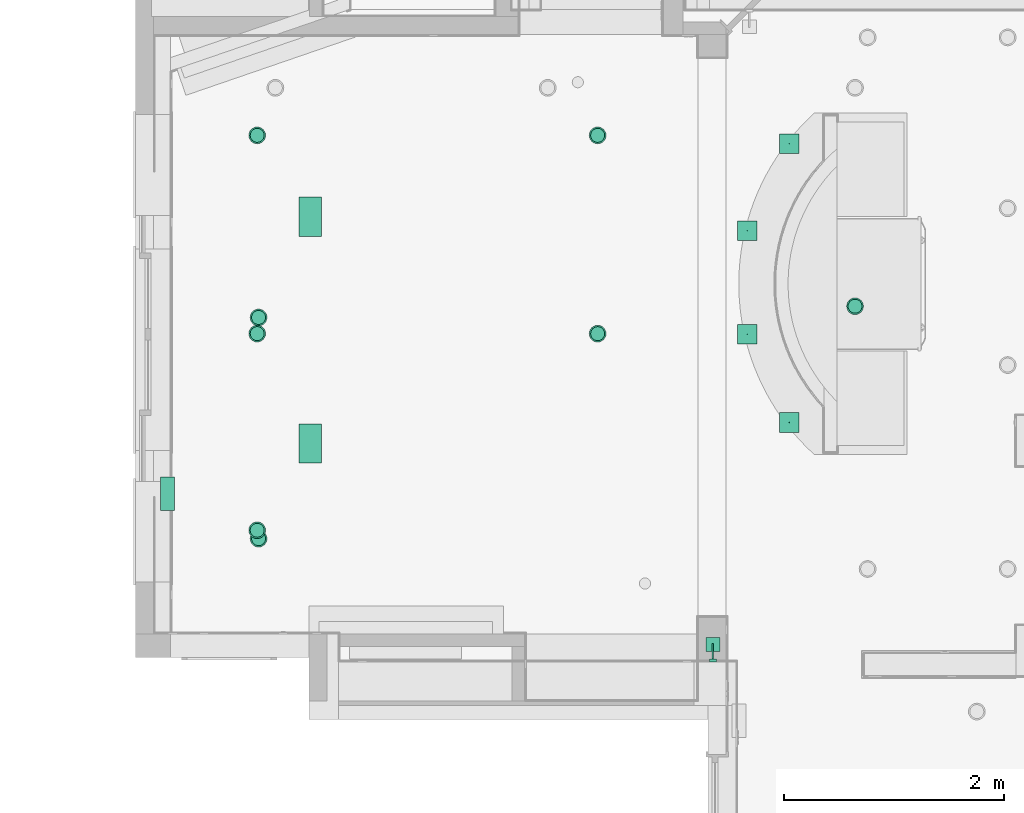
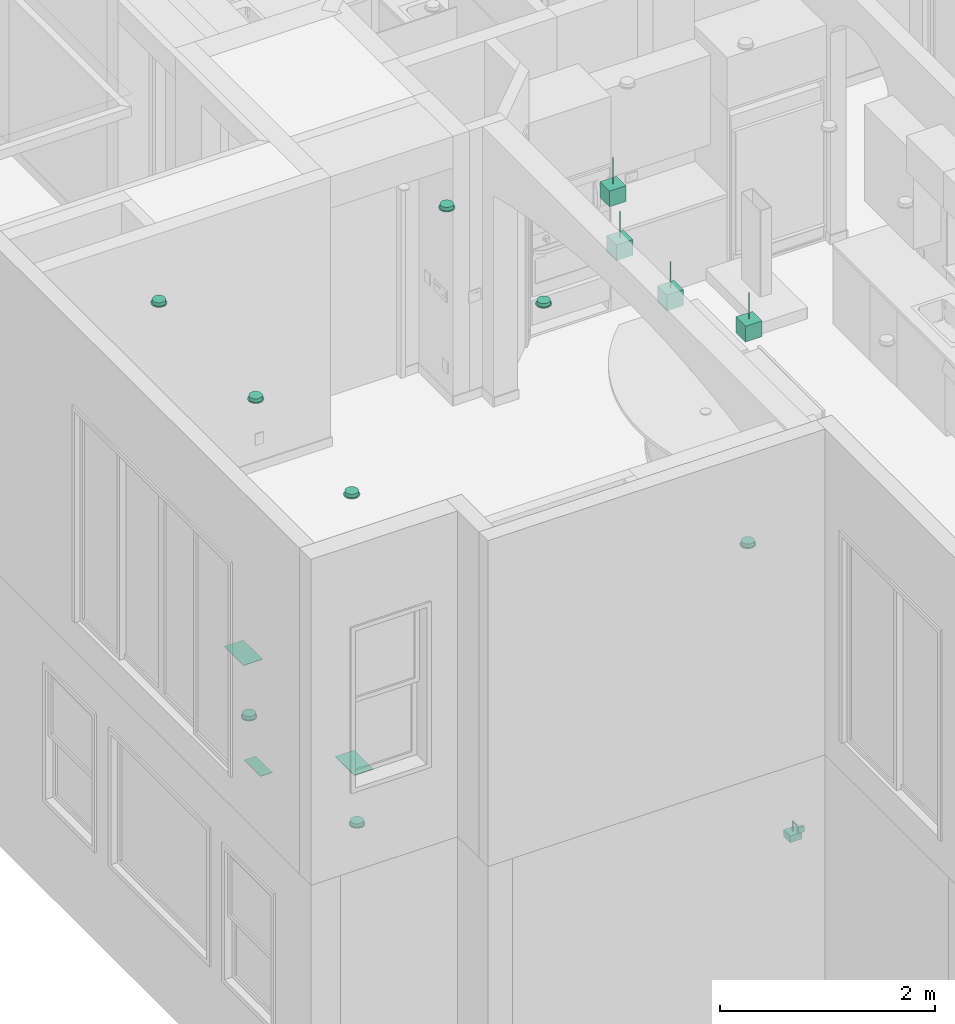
# One storey, part 36 of 60: 16 flow terminals.
"""IFC2X3 building model written with IfcOpenShell, lengths in feet."""

from ifc_helpers import new_model, entity, si_unit, converted_unit, direction, frame, frame_2d, origin, origin_2d_with_axis, place, context, subcontext, project, spatial, rectangle, extrude, faceted_brep, source, transform, mapped, material, material_list, type_object, type_shapes, element, save


model = new_model("IFC2X3")

# Units and contexts
model_context = context("Model", 3, precision=0.0001, world=origin(), true_north=direction((6.123031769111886e-17, 1.0)))
plan_context = context("Plan", 3, precision=0.0001, world=origin(), true_north=direction((6.123031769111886e-17, 1.0)))
body_context = subcontext(model_context, "Body", "Model", "MODEL_VIEW")
ifc_project = project(units=[converted_unit("LENGTHUNIT", "FOOT", entity("IfcLengthMeasure", 0.3048), si_unit("LENGTHUNIT", "METRE"), dimensions=[1, 0, 0, 0, 0, 0, 0]), converted_unit("AREAUNIT", "SQUARE FOOT", entity("IfcAreaMeasure", 0.09290304), si_unit("AREAUNIT", "SQUARE_METRE"), dimensions=[2, 0, 0, 0, 0, 0, 0]), converted_unit("PLANEANGLEUNIT", "DEGREE", entity("IfcPlaneAngleMeasure", 0.017453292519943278), si_unit("PLANEANGLEUNIT", "RADIAN"), dimensions=[0, 0, 0, 0, 0, 0, 0])], contexts=[model_context, plan_context])

# Site, building, storey
site_placement = place(None, origin())
site = spatial("IfcSite", under=ifc_project, at=site_placement, Name="Default", CompositionType="ELEMENT")
building_placement = place(site_placement, origin())
building = spatial("IfcBuilding", under=site, at=building_placement, CompositionType="ELEMENT")
storey_placement = place(building_placement, origin())
storey = spatial("IfcBuildingStorey", under=building, at=storey_placement, Name="First floor", CompositionType="ELEMENT", Elevation=0.0)

# Flow terminals
ifc_material_1 = material(Name="Default New Material")
ifc_material_2 = material(Name="Glass, White, High Luminance")
ifc_material_list = material_list([ifc_material_1, ifc_material_2])
light_fixture_type_1 = type_object("IfcLightFixtureType", Name="C_Spotlight Recessed:Light 2", PredefinedType="NOTDEFINED", material=ifc_material_list)
shared_shape_1 = source(origin(), body_context, "Body", "Brep", [
    faceted_brep([(-0.12499999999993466, 0.21650635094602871, 0.020833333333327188), (-0.17677669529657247, 0.17677669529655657, 0.020833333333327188), (-0.08333333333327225, 0.14433756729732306, 0.020833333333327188), (-0.04313650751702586, 0.1609876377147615, 0.020833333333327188), (-0.0647047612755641, 0.24148145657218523, 0.020833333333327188), (-0.11785113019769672, 0.11785113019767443, 0.020833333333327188), (-0.21650635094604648, 0.12499999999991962, 0.020833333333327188), (-0.1443375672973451, 0.08333333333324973, 0.020833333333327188), (-0.16098763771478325, 0.04313650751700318, 0.020833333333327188), (-0.2414814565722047, 0.06470476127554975, 0.020833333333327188), (-0.166666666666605, 0.0, 0.020833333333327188), (-0.24999999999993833, 0.0, 0.020833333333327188), (-0.16098763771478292, -0.043136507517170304, 0.020833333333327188), (-0.24148145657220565, -0.06470476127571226, 0.020833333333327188), (-0.14433756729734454, -0.08333333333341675, 0.020833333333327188), (-0.2165063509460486, -0.12500000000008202, 0.020833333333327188), (-0.117851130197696, -0.11785113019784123, 0.020833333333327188), (-0.1767766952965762, -0.17677669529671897, 0.020833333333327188), (-0.08333333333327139, -0.14433756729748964, 0.020833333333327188), (-0.12499999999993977, -0.21650635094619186, 0.020833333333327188), (-0.04313650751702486, -0.16098763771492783, 0.020833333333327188), (-0.06470476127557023, -0.24148145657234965, 0.020833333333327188), (0.0, -0.1666666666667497, 0.020833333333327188), (0.0, -0.25000000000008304, 0.020833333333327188), (0.04313650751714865, -0.1609876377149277, 0.020833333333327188), (0.06470476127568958, -0.24148145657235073, 0.020833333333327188), (0.08333333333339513, -0.1443375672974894, 0.020833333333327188), (0.12500000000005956, -0.21650635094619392, 0.020833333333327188), (0.11785113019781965, -0.11785113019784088, 0.020833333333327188), (0.1767766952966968, -0.1767766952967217, 0.020833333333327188), (0.14433756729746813, -0.0833333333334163, 0.020833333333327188), (0.21650635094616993, -0.12500000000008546, 0.020833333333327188), (0.24148145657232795, -0.06470476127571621, 0.020833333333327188), (0.16098763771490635, -0.0431365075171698, 0.020833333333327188), (0.2500000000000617, 0.0, 0.020833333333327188), (0.1666666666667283, 0.0, 0.020833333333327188), (0.24148145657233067, 0.06470476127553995, 0.020833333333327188), (0.16098763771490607, 0.04313650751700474, 0.020833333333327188), (0.21650635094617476, 0.12499999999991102, 0.020833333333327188), (0.14433756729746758, 0.08333333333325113, 0.020833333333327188), (0.17677669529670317, 0.17677669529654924, 0.020833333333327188), (0.1178511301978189, 0.11785113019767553, 0.020833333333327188), (0.1250000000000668, 0.21650635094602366, 0.020833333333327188), (0.08333333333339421, 0.14433756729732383, 0.020833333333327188), (0.06470476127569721, 0.2414814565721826, 0.020833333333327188), (0.04313650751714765, 0.16098763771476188, 0.020833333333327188), (0.0, 0.24999999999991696, 0.020833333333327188), (0.0, 0.1666666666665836, 0.020833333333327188), (-0.12499999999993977, -0.21650635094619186, 0.0), (-0.1767766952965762, -0.17677669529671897, 0.0), (-0.08333333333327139, -0.14433756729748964, 0.0), (-0.04313650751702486, -0.16098763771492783, 0.0), (-0.06470476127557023, -0.24148145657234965, 0.0), (-0.117851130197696, -0.11785113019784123, 0.0), (-0.2165063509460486, -0.12500000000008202, 0.0), (-0.14433756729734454, -0.08333333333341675, 0.0), (-0.16098763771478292, -0.043136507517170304, 0.0), (-0.24148145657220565, -0.06470476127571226, 0.0), (-0.166666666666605, 0.0, 0.0), (-0.24999999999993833, 0.0, 0.0), (-0.16098763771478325, 0.04313650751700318, 0.0), (-0.2414814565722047, 0.06470476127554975, 0.0), (-0.1443375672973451, 0.08333333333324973, 0.0), (-0.21650635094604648, 0.12499999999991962, 0.0), (-0.11785113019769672, 0.11785113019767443, 0.0), (-0.17677669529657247, 0.17677669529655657, 0.0), (-0.08333333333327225, 0.14433756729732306, 0.0), (-0.12499999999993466, 0.21650635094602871, 0.0), (-0.04313650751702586, 0.1609876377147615, 0.0), (-0.0647047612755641, 0.24148145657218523, 0.0), (0.0, 0.1666666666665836, 0.0), (0.0, 0.24999999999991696, 0.0), (0.04313650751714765, 0.16098763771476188, 0.0), (0.06470476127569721, 0.2414814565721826, 0.0), (0.08333333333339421, 0.14433756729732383, 0.0), (0.1250000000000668, 0.21650635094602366, 0.0), (0.1178511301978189, 0.11785113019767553, 0.0), (0.17677669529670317, 0.17677669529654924, 0.0), (0.14433756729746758, 0.08333333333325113, 0.0), (0.21650635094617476, 0.12499999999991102, 0.0), (0.24148145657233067, 0.06470476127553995, 0.0), (0.16098763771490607, 0.04313650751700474, 0.0), (0.2500000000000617, 0.0, 0.0), (0.1666666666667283, 0.0, 0.0), (0.24148145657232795, -0.06470476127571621, 0.0), (0.16098763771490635, -0.0431365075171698, 0.0), (0.21650635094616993, -0.12500000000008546, 0.0), (0.14433756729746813, -0.0833333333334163, 0.0), (0.1767766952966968, -0.1767766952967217, 0.0), (0.11785113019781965, -0.11785113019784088, 0.0), (0.12500000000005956, -0.21650635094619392, 0.0), (0.08333333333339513, -0.1443375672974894, 0.0), (0.06470476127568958, -0.24148145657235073, 0.0), (0.04313650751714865, -0.1609876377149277, 0.0), (0.0, -0.25000000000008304, 0.0), (0.0, -0.1666666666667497, 0.0)], [[[0, 1, 2]], [[0, 2, 3]], [[3, 4, 0]], [[2, 1, 5]], [[6, 5, 1]], [[7, 5, 6]], [[8, 7, 6]], [[8, 6, 9]], [[8, 9, 10]], [[10, 9, 11]], [[12, 10, 11]], [[12, 11, 13]], [[14, 12, 13]], [[14, 13, 15]], [[16, 14, 15]], [[15, 17, 16]], [[17, 18, 16]], [[18, 17, 19]], [[18, 19, 20]], [[21, 20, 19]], [[20, 21, 22]], [[22, 21, 23]], [[23, 24, 22]], [[24, 23, 25]], [[24, 25, 26]], [[27, 26, 25]], [[27, 28, 26]], [[27, 29, 28]], [[30, 28, 29]], [[31, 30, 29]], [[32, 30, 31]], [[33, 30, 32]], [[33, 32, 34]], [[34, 35, 33]], [[36, 35, 34]], [[36, 37, 35]], [[37, 36, 38]], [[39, 37, 38]], [[39, 38, 40]], [[39, 40, 41]], [[40, 42, 41]], [[41, 42, 43]], [[43, 42, 44]], [[44, 45, 43]], [[46, 45, 44]], [[4, 47, 46]], [[45, 46, 47]], [[4, 3, 47]], [[48, 49, 50]], [[48, 50, 51]], [[51, 52, 48]], [[50, 49, 53]], [[54, 53, 49]], [[55, 53, 54]], [[56, 55, 54]], [[56, 54, 57]], [[56, 57, 58]], [[58, 57, 59]], [[60, 58, 59]], [[60, 59, 61]], [[62, 60, 61]], [[62, 61, 63]], [[64, 62, 63]], [[63, 65, 64]], [[65, 66, 64]], [[66, 65, 67]], [[66, 67, 68]], [[69, 68, 67]], [[68, 69, 70]], [[70, 69, 71]], [[71, 72, 70]], [[72, 71, 73]], [[72, 73, 74]], [[75, 74, 73]], [[75, 76, 74]], [[75, 77, 76]], [[78, 76, 77]], [[79, 78, 77]], [[80, 78, 79]], [[81, 78, 80]], [[81, 80, 82]], [[82, 83, 81]], [[84, 83, 82]], [[84, 85, 83]], [[85, 84, 86]], [[87, 85, 86]], [[87, 86, 88]], [[87, 88, 89]], [[88, 90, 89]], [[89, 90, 91]], [[91, 90, 92]], [[92, 93, 91]], [[94, 93, 92]], [[52, 95, 94]], [[93, 94, 95]], [[52, 51, 95]], [[10, 58, 60, 8]], [[8, 60, 62, 7]], [[2, 5, 64, 66]], [[62, 64, 5, 7]], [[3, 2, 66, 68]], [[70, 47, 3, 68]], [[45, 72, 74, 43]], [[43, 74, 76, 41]], [[37, 39, 78, 81]], [[76, 78, 39, 41]], [[35, 37, 81, 83]], [[45, 47, 70, 72]], [[35, 83, 85, 33]], [[33, 85, 87, 30]], [[26, 28, 89, 91]], [[87, 89, 28, 30]], [[24, 26, 91, 93]], [[95, 22, 24, 93]], [[20, 51, 50, 18]], [[18, 50, 53, 16]], [[12, 14, 55, 56]], [[53, 55, 14, 16]], [[10, 12, 56, 58]], [[20, 22, 95, 51]], [[57, 13, 11, 59]], [[54, 15, 13, 57]], [[19, 17, 49, 48]], [[54, 49, 17, 15]], [[21, 19, 48, 52]], [[23, 21, 52, 94]], [[92, 25, 23, 94]], [[90, 27, 25, 92]], [[31, 29, 88, 86]], [[90, 88, 29, 27]], [[32, 31, 86, 84]], [[34, 32, 84, 82]], [[80, 36, 34, 82]], [[79, 38, 36, 80]], [[42, 40, 77, 75]], [[79, 77, 40, 38]], [[44, 42, 75, 73]], [[46, 44, 73, 71]], [[69, 4, 46, 71]], [[67, 0, 4, 69]], [[6, 1, 65, 63]], [[67, 65, 1, 0]], [[9, 6, 63, 61]], [[11, 9, 61, 59]]]),
    faceted_brep([(0.043136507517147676, -0.160987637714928, 0.020833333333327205), (0.08333333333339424, -0.14433756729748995, 0.020833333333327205), (0.11785113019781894, -0.11785113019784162, 0.020833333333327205), (0.14433756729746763, -0.08333333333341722, 0.020833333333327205), (0.16098763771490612, -0.043136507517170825, 0.020833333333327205), (0.16666666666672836, 0.0, 0.020833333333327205), (0.1609876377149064, 0.04313650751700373, 0.020833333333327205), (0.1443375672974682, 0.08333333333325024, 0.020833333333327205), (0.11785113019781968, 0.11785113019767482, 0.020833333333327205), (0.08333333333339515, 0.14433756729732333, 0.020833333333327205), (0.043136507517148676, 0.16098763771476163, 0.020833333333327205), (0.0, 0.16666666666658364, 0.020833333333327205), (-0.04313650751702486, 0.16098763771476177, 0.020833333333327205), (-0.08333333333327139, 0.14433756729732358, 0.020833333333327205), (-0.117851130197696, 0.11785113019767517, 0.020833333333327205), (-0.1443375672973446, 0.08333333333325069, 0.020833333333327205), (-0.16098763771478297, 0.043136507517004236, 0.020833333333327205), (-0.166666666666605, 0.0, 0.020833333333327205), (-0.1609876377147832, -0.04313650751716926, 0.020833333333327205), (-0.14433756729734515, -0.08333333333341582, 0.020833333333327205), (-0.11785113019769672, -0.11785113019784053, 0.020833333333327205), (-0.08333333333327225, -0.14433756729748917, 0.020833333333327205), (-0.04313650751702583, -0.1609876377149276, 0.020833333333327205), (0.0, -0.16666666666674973, 0.020833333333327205), (0.043136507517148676, 0.16098763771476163, 0.0), (0.08333333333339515, 0.14433756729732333, 0.0), (0.11785113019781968, 0.11785113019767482, 0.0), (0.1443375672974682, 0.08333333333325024, 0.0), (0.1609876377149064, 0.04313650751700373, 0.0), (0.16666666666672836, 0.0, 0.0), (0.16098763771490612, -0.043136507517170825, 0.0), (0.14433756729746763, -0.08333333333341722, 0.0), (0.11785113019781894, -0.11785113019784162, 0.0), (0.08333333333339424, -0.14433756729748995, 0.0), (0.043136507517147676, -0.160987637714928, 0.0), (0.0, -0.16666666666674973, 0.0), (-0.04313650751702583, -0.1609876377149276, 0.0), (-0.08333333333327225, -0.14433756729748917, 0.0), (-0.11785113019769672, -0.11785113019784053, 0.0), (-0.14433756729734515, -0.08333333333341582, 0.0), (-0.1609876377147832, -0.04313650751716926, 0.0), (-0.166666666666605, 0.0, 0.0), (-0.16098763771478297, 0.043136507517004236, 0.0), (-0.1443375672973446, 0.08333333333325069, 0.0), (-0.117851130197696, 0.11785113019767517, 0.0), (-0.08333333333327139, 0.14433756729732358, 0.0), (-0.04313650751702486, 0.16098763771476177, 0.0), (0.0, 0.16666666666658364, 0.0)], [[[0, 1, 2, 3, 4, 5, 6, 7, 8, 9, 10, 11, 12, 13, 14, 15, 16, 17, 18, 19, 20, 21, 22, 23]], [[24, 25, 26, 27, 28, 29, 30, 31, 32, 33, 34, 35, 36, 37, 38, 39, 40, 41, 42, 43, 44, 45, 46, 47]], [[40, 18, 17, 41]], [[39, 19, 18, 40]], [[21, 20, 38, 37]], [[39, 38, 20, 19]], [[22, 21, 37, 36]], [[23, 22, 36, 35]], [[34, 0, 23, 35]], [[33, 1, 0, 34]], [[3, 2, 32, 31]], [[33, 32, 2, 1]], [[4, 3, 31, 30]], [[5, 4, 30, 29]], [[28, 6, 5, 29]], [[27, 7, 6, 28]], [[9, 8, 26, 25]], [[27, 26, 8, 7]], [[10, 9, 25, 24]], [[11, 10, 24, 47]], [[46, 12, 11, 47]], [[45, 13, 12, 46]], [[15, 14, 44, 43]], [[45, 44, 14, 13]], [[16, 15, 43, 42]], [[17, 16, 42, 41]]]),
    faceted_brep([(0.0, -0.16666666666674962, -0.10416666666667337), (0.04313650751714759, -0.1609876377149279, -0.10416666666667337), (0.08333333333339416, -0.1443375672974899, -0.10416666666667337), (0.1178511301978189, -0.11785113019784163, -0.10416666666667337), (0.1443375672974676, -0.08333333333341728, -0.10416666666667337), (0.16098763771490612, -0.043136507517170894, -0.10416666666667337), (0.16666666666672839, 0.0, -0.10416666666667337), (0.16098763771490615, 0.04313650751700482, -0.10416666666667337), (0.14433756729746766, 0.08333333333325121, -0.10416666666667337), (0.11785113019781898, 0.11785113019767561, -0.10416666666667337), (0.0833333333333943, 0.14433756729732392, -0.10416666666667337), (0.04313650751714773, 0.16098763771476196, -0.10416666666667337), (0.0, 0.1666666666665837, -0.10416666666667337), (-0.043136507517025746, 0.16098763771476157, -0.10416666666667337), (-0.08333333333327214, 0.14433756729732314, -0.10416666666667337), (-0.11785113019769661, 0.11785113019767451, -0.10416666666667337), (-0.14433756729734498, 0.08333333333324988, -0.10416666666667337), (-0.16098763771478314, 0.04313650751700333, -0.10416666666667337), (-0.16666666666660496, 0.0, -0.10416666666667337), (-0.16098763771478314, -0.04313650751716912, -0.10416666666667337), (-0.1443375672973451, -0.08333333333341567, -0.10416666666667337), (-0.11785113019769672, -0.11785113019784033, -0.10416666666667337), (-0.08333333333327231, -0.14433756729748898, -0.10416666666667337), (-0.04313650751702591, -0.16098763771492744, -0.10416666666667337), (0.0, 0.20833333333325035, -0.12500000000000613), (0.053920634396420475, 0.20123454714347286, -0.12500000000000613), (0.10416666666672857, 0.18042195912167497, -0.12500000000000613), (0.14731391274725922, 0.14731391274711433, -0.12500000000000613), (0.18042195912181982, 0.1041666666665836, -0.12500000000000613), (0.2012345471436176, 0.053920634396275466, -0.12500000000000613), (0.20833333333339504, 0.0, -0.12500000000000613), (0.20123454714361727, -0.0539206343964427, -0.12500000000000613), (0.18042195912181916, -0.10416666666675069, -0.12500000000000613), (0.1473139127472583, -0.14731391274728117, -0.12500000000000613), (0.10416666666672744, -0.18042195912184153, -0.12500000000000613), (0.053920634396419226, -0.2012345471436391, -0.12500000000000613), (0.0, -0.20833333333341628, -0.12500000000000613), (-0.05392063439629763, -0.20123454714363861, -0.12500000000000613), (-0.10416666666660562, -0.18042195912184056, -0.12500000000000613), (-0.14731391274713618, -0.1473139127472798, -0.12500000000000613), (-0.18042195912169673, -0.10416666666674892, -0.12500000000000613), (-0.20123454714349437, -0.05392063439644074, -0.12500000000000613), (-0.2083333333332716, 0.0, -0.12500000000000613), (-0.20123454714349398, 0.053920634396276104, -0.12500000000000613), (-0.18042195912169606, 0.10416666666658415, -0.12500000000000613), (-0.1473139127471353, 0.14731391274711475, -0.12500000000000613), (-0.10416666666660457, 0.1804219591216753, -0.12500000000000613), (-0.05392063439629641, 0.20123454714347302, -0.12500000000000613), (-0.2012345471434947, -0.053920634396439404, -0.10416666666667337), (-0.20123454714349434, -0.053920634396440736, 0.0), (-0.20833333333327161, 0.0, 0.0), (-0.2083333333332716, 0.0, -0.10416666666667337), (-0.1804219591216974, -0.10416666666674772, -0.10416666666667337), (-0.1804219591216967, -0.10416666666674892, 0.0), (-0.10416666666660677, -0.18042195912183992, -0.10416666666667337), (-0.10416666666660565, -0.18042195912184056, 0.0), (-0.1473139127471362, -0.1473139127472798, 0.0), (-0.14731391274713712, -0.14731391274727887, -0.10416666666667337), (-0.053920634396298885, -0.20123454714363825, -0.10416666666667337), (-0.05392063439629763, -0.20123454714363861, 0.0), (0.0, -0.20833333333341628, -0.10416666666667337), (0.0, -0.20833333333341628, 0.0), (0.05392063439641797, -0.20123454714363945, -0.10416666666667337), (0.053920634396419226, -0.2012345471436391, 0.0), (0.10416666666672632, -0.1804219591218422, -0.10416666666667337), (0.10416666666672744, -0.18042195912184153, 0.0), (0.1804219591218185, -0.1041666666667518, -0.10416666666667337), (0.18042195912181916, -0.10416666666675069, 0.0), (0.1473139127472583, -0.14731391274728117, 0.0), (0.1473139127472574, -0.1473139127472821, -0.10416666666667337), (0.20123454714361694, -0.05392063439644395, -0.10416666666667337), (0.20123454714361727, -0.05392063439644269, 0.0), (0.20833333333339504, 0.0, -0.10416666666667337), (0.20833333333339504, 0.0, 0.0), (0.2012345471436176, 0.053920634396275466, -0.10416666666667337), (0.2012345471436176, 0.05392063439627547, 0.0), (0.18042195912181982, 0.1041666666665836, -0.10416666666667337), (0.18042195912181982, 0.1041666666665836, 0.0), (0.10416666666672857, 0.18042195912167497, -0.10416666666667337), (0.10416666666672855, 0.18042195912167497, 0.0), (0.14731391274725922, 0.14731391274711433, 0.0), (0.14731391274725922, 0.14731391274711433, -0.10416666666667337), (0.053920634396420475, 0.20123454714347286, -0.10416666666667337), (0.053920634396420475, 0.20123454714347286, 0.0), (0.0, 0.20833333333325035, -0.10416666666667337), (0.0, 0.20833333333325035, 0.0), (-0.05392063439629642, 0.20123454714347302, -0.10416666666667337), (-0.05392063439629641, 0.20123454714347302, 0.0), (-0.10416666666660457, 0.1804219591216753, -0.10416666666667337), (-0.10416666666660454, 0.1804219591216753, 0.0), (-0.18042195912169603, 0.10416666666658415, -0.10416666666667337), (-0.18042195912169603, 0.10416666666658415, 0.0), (-0.14731391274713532, 0.14731391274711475, 0.0), (-0.14731391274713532, 0.14731391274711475, -0.10416666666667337), (-0.20123454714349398, 0.053920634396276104, -0.10416666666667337), (-0.20123454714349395, 0.05392063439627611, 0.0), (-0.08333333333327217, 0.14433756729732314, 0.0), (-0.043136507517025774, 0.16098763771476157, 0.0), (-0.11785113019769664, 0.11785113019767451, 0.0), (-0.144337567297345, 0.08333333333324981, 0.0), (-0.16098763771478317, 0.04313650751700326, 0.0), (-0.16666666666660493, 0.0, 0.0), (-0.16098763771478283, -0.04313650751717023, 0.0), (-0.14433756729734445, -0.08333333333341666, 0.0), (-0.11785113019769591, -0.11785113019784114, 0.0), (-0.08333333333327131, -0.14433756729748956, 0.0), (-0.043136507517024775, -0.16098763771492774, 0.0), (0.0, -0.16666666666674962, 0.0), (0.04313650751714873, -0.1609876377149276, 0.0), (0.08333333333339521, -0.1443375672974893, 0.0), (0.11785113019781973, -0.1178511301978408, 0.0), (0.14433756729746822, -0.08333333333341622, 0.0), (0.16098763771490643, -0.04313650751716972, 0.0), (0.16666666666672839, 0.0, 0.0), (0.16098763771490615, 0.04313650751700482, 0.0), (0.14433756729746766, 0.08333333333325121, 0.0), (0.11785113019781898, 0.11785113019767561, 0.0), (0.0833333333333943, 0.14433756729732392, 0.0), (0.04313650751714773, 0.16098763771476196, 0.0), (0.0, 0.1666666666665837, 0.0)], [[[0, 1, 2, 3, 4, 5, 6, 7, 8, 9, 10, 11, 12, 13, 14, 15, 16, 17, 18, 19, 20, 21, 22, 23]], [[24, 25, 26, 27, 28, 29, 30, 31, 32, 33, 34, 35, 36, 37, 38, 39, 40, 41, 42, 43, 44, 45, 46, 47]], [[41, 48, 49, 50, 51, 42]], [[40, 52, 53, 49, 48, 41]], [[54, 55, 56, 57, 39, 38]], [[40, 39, 57, 56, 53, 52]], [[58, 59, 55, 54, 38, 37]], [[60, 61, 59, 58, 37, 36]], [[35, 62, 63, 61, 60, 36]], [[34, 64, 65, 63, 62, 35]], [[66, 67, 68, 69, 33, 32]], [[34, 33, 69, 68, 65, 64]], [[70, 71, 67, 66, 32, 31]], [[72, 73, 71, 70, 31, 30]], [[29, 74, 75, 73, 72, 30]], [[28, 76, 77, 75, 74, 29]], [[78, 79, 80, 81, 27, 26]], [[28, 27, 81, 80, 77, 76]], [[82, 83, 79, 78, 26, 25]], [[84, 85, 83, 82, 25, 24]], [[47, 86, 87, 85, 84, 24]], [[46, 88, 89, 87, 86, 47]], [[90, 91, 92, 93, 45, 44]], [[46, 45, 93, 92, 89, 88]], [[94, 95, 91, 90, 44, 43]], [[51, 50, 95, 94, 43, 42]], [[89, 92, 96]], [[89, 96, 97]], [[97, 87, 89]], [[96, 92, 98]], [[91, 98, 92]], [[99, 98, 91]], [[100, 99, 91]], [[100, 91, 95]], [[100, 95, 101]], [[101, 95, 50]], [[102, 101, 50]], [[102, 50, 49]], [[103, 102, 49]], [[103, 49, 53]], [[104, 103, 53]], [[53, 56, 104]], [[56, 105, 104]], [[105, 56, 55]], [[105, 55, 106]], [[59, 106, 55]], [[106, 59, 107]], [[107, 59, 61]], [[61, 108, 107]], [[108, 61, 63]], [[108, 63, 109]], [[65, 109, 63]], [[65, 110, 109]], [[65, 68, 110]], [[111, 110, 68]], [[67, 111, 68]], [[71, 111, 67]], [[112, 111, 71]], [[112, 71, 73]], [[73, 113, 112]], [[75, 113, 73]], [[75, 114, 113]], [[114, 75, 77]], [[115, 114, 77]], [[115, 77, 80]], [[115, 80, 116]], [[80, 79, 116]], [[116, 79, 117]], [[117, 79, 83]], [[83, 118, 117]], [[85, 118, 83]], [[87, 119, 85]], [[85, 119, 118]], [[87, 97, 119]], [[113, 6, 5, 112]], [[112, 5, 4, 111]], [[109, 110, 3, 2]], [[4, 3, 110, 111]], [[108, 109, 2, 1]], [[0, 107, 108, 1]], [[104, 105, 22, 21]], [[23, 22, 105, 106]], [[102, 103, 20, 19]], [[104, 21, 20, 103]], [[102, 19, 18, 101]], [[0, 23, 106, 107]], [[101, 18, 17, 100]], [[100, 17, 16, 99]], [[96, 98, 15, 14]], [[16, 15, 98, 99]], [[97, 96, 14, 13]], [[12, 119, 97, 13]], [[118, 11, 10, 117]], [[117, 10, 9, 116]], [[114, 115, 8, 7]], [[9, 8, 115, 116]], [[113, 114, 7, 6]], [[118, 119, 12, 11]]]),
])
type_shapes(light_fixture_type_1, [shared_shape_1])
for number, where, z_axis, x_axis, name in (
    (1, (-3.2849605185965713, 26.0435267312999, 20.541666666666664), (0.0, 0.0, -1.0), (0.0, -1.0, 0.0), "C_Spotlight Recessed:Light 2"),
    (2, (-3.2849605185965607, 20.14266363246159, 20.541666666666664), (0.0, 0.0, -1.0), (0.0, -1.0, 0.0), "C_Spotlight Recessed:Light 2"),
    (3, (-13.4166666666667, 14.291666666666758, 20.541666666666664), (0.0, 0.0, -1.0), (0.0, -1.0, 0.0), "C_Spotlight Recessed:Light 2"),
    (4, (-13.416666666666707, 20.144534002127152, 20.541666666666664), (0.0, 0.0, -1.0), (0.0, -1.0, 0.0), "C_Spotlight Recessed:Light 2"),
    (5, (-13.416666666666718, 26.04352673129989, 20.541666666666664), (0.0, 0.0, -1.0), (0.0, -1.0, 0.0), "C_Spotlight Recessed:Light 2"),
    (6, (-13.375000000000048, 14.041666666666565, 8.416666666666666), (0.0, 0.0, -1.0), (0.0, -1.0, 0.0), "C_Spotlight Recessed:Light 2"),
    (7, (4.374999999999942, 20.958333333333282, 8.416666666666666), (0.0, 0.0, -1.0), (0.0, -1.0, 0.0), "C_Spotlight Recessed:Light 2"),
    (8, (-13.375000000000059, 20.624999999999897, 8.416666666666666), (0.0, 0.0, -1.0), (0.0, -1.0, 0.0), "C_Spotlight Recessed:Light 2"),
):
    element("IfcFlowTerminal", number, at=place(storey_placement, frame(where, z_axis=z_axis, x_axis=x_axis)), inside=storey, type_object=light_fixture_type_1, material=ifc_material_list, Name=name, ObjectType="C_Spotlight Recessed:Light 2", context=body_context, shape_type="MappedRepresentation", body=[
        mapped(shared_shape_1, transform((0.0, 0.0, 0.0), scale=1.0)),
    ])
air_terminal_type_1 = type_object("IfcAirTerminalType", Name="C_Grill_Surface Based:Standard 2", PredefinedType="NOTDEFINED", material=ifc_material_1)
shared_shape_2 = source(origin(), body_context, "Body", "SweptSolid", [
    extrude(rectangle(XDim=0.4166666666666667, YDim=0.9999999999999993, at=origin_2d_with_axis()), frame((0.0, 0.0, 0.0), z_axis=(0.0, 0.0, 1.0), x_axis=(-1.0, 0.0, 0.0)), (0.0, 0.0, 1.0), 0.020833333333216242),
])
type_shapes(air_terminal_type_1, [shared_shape_2])
flow_terminal_1_placement = place(storey_placement, frame((-16.083333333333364, 15.37500000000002, 10.666666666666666)))
element("IfcFlowTerminal", 9, at=flow_terminal_1_placement, inside=storey, type_object=air_terminal_type_1, material=ifc_material_1, Name="C_Grill_Surface Based:Standard 2", ObjectType="C_Grill_Surface Based:Standard 2", context=body_context, shape_type="MappedRepresentation", body=[
    mapped(shared_shape_2, transform((0.0, 0.0, 0.0), scale=1.0)),
])
air_terminal_type_2 = type_object("IfcAirTerminalType", Name="C_Grill_Surface Based:Standard 2", PredefinedType="NOTDEFINED", material=ifc_material_1)
shared_shape_3 = source(origin(), body_context, "Body", "SweptSolid", [
    extrude(rectangle(XDim=0.6666666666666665, YDim=1.1666666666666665, at=frame_2d((-2.7755575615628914e-17, 0.0), x_axis=(1.0, 0.0))), frame((0.0, 0.0, 0.0), z_axis=(0.0, 0.0, 1.0), x_axis=(-1.0, 0.0, 0.0)), (0.0, 0.0, 1.0), 0.020833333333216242),
])
type_shapes(air_terminal_type_2, [shared_shape_3])
for number, where, z_axis, x_axis, name in (
    (10, (-11.8333333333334, 16.87499999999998, 8.416666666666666), (0.0, 0.0, -1.0), (1.0, 0.0, 0.0), "C_Grill_Surface Based:Standard 2"),
    (11, (-11.833333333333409, 23.62499999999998, 8.416666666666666), (0.0, 0.0, -1.0), (1.0, 0.0, 0.0), "C_Grill_Surface Based:Standard 2"),
):
    element("IfcFlowTerminal", number, at=place(storey_placement, frame(where, z_axis=z_axis, x_axis=x_axis)), inside=storey, type_object=air_terminal_type_2, material=ifc_material_1, Name=name, ObjectType="C_Grill_Surface Based:Standard 2", context=body_context, shape_type="MappedRepresentation", body=[
        mapped(shared_shape_3, transform((0.0, 0.0, 0.0), scale=1.0)),
    ])
light_fixture_type_2 = type_object("IfcLightFixtureType", Name="C_Ceiling Lamp:C_Ceiling Lamp", PredefinedType="NOTDEFINED", material=ifc_material_1)
shared_shape_4 = source(origin(), body_context, "Body", "SweptSolid", [
    extrude(rectangle(XDim=0.5833333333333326, YDim=0.5833333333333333, at=origin_2d_with_axis()), frame((0.0, 0.0, -14.104166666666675), z_axis=(0.0, 0.0, 1.0), x_axis=(0.0, 1.0, 0.0)), (0.0, 0.0, 1.0), 0.5833333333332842),
    extrude(rectangle(XDim=0.02140587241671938, YDim=0.02083333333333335, at=origin_2d_with_axis()), frame((0.0, 0.0, -13.520833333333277), z_axis=(0.0, 0.0, 1.0), x_axis=(0.0, 1.0, 0.0)), (0.0, 0.0, 1.0), 0.9791666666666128),
])
type_shapes(light_fixture_type_2, [shared_shape_4])
for number, where, name in (
    (12, (2.4166666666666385, 17.499999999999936, 33.08333333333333), "C_Ceiling Lamp:C_Ceiling Lamp"),
    (13, (1.1666666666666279, 20.124999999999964, 33.08333333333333), "C_Ceiling Lamp:C_Ceiling Lamp"),
    (14, (1.1666666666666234, 23.208333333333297, 33.08333333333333), "C_Ceiling Lamp:C_Ceiling Lamp"),
    (15, (2.416666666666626, 25.79166666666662, 33.08333333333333), "C_Ceiling Lamp:C_Ceiling Lamp"),
):
    element("IfcFlowTerminal", number, at=place(storey_placement, frame(where)), inside=storey, type_object=light_fixture_type_2, material=ifc_material_1, Name=name, ObjectType="C_Ceiling Lamp:C_Ceiling Lamp", context=body_context, shape_type="MappedRepresentation", body=[
        mapped(shared_shape_4, transform((0.0, 0.0, 0.0), scale=1.0)),
    ])
light_fixture_type_3 = type_object("IfcLightFixtureType", Name="C_Sconce Downwards:33700 ICARIA White ceiling fan / Wood Blade", PredefinedType="NOTDEFINED", material=ifc_material_1)
shared_shape_5 = source(origin(), body_context, "Body", "Brep", [
    faceted_brep([(-0.10416666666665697, -0.10416666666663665, 0.08333333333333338), (0.10416666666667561, -0.10416666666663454, 0.08333333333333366), (0.1041666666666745, 0.10416666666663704, 0.0833333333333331), (-0.1041666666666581, 0.1041666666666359, 0.08333333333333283), (0.020833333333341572, 0.020833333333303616, 0.08333333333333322), (0.020833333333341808, -0.02083333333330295, 0.08333333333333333), (-0.020833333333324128, -0.020833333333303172, 0.08333333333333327), (-0.020833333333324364, 0.020833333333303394, 0.08333333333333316), (-0.10416666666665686, -0.10416666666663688, 0.0), (-0.10416666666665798, 0.10416666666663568, 0.0), (0.10416666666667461, 0.10416666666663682, 0.0), (0.10416666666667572, -0.10416666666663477, 0.0), (0.020833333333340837, 0.020833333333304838, 0.5416666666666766), (0.02083333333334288, -0.3541666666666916, 0.5416666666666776), (0.02083333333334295, -0.3541666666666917, 0.500000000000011), (0.02083333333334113, -0.02083333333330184, 0.5000000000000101), (-0.020833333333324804, -0.020833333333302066, 0.50000000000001), (-0.020833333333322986, -0.35416666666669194, 0.5000000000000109), (-0.020833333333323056, -0.35416666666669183, 0.5416666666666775), (-0.0208333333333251, 0.020833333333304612, 0.5416666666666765)], [[[0, 1, 2, 3], [4, 5, 6, 7]], [[8, 9, 10, 11]], [[0, 3, 9, 8]], [[3, 2, 10, 9]], [[2, 1, 11, 10]], [[1, 0, 8, 11]], [[12, 13, 14, 15, 5, 4]], [[16, 17, 18, 19, 7, 6]], [[15, 16, 6, 5]], [[19, 12, 4, 7]], [[13, 12, 19, 18]], [[14, 13, 18, 17]], [[15, 14, 17, 16]]]),
    faceted_brep([(0.20833333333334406, -0.3541666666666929, 0.31600321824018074), (0.2083333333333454, -0.6041666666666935, 0.3160032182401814), (-0.20833333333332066, -0.6041666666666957, 0.3160032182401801), (-0.20833333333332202, -0.35416666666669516, 0.3160032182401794), (0.20833333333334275, -0.35416666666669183, 0.7205016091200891), (-0.2083333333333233, -0.3541666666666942, 0.7205016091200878), (-0.20833333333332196, -0.6041666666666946, 0.7205016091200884), (0.20833333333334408, -0.6041666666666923, 0.7205016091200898)], [[[0, 1, 2, 3]], [[4, 5, 6, 7]], [[4, 7, 1, 0]], [[7, 6, 2, 1]], [[6, 5, 3, 2]], [[5, 4, 0, 3]]]),
])
type_shapes(light_fixture_type_3, [shared_shape_5])
flow_terminal_2_placement = place(storey_placement, frame((0.14589315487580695, 10.374999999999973, 5.666666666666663), z_axis=(0.0, 1.0, 0.0), x_axis=(-1.0, 0.0, 0.0)))
element("IfcFlowTerminal", 16, at=flow_terminal_2_placement, inside=storey, type_object=light_fixture_type_3, material=ifc_material_1, Name="C_Sconce Downwards:33700 ICARIA White ceiling fan / Wood Blade", ObjectType="C_Sconce Downwards:33700 ICARIA White ceiling fan / Wood Blade", context=body_context, shape_type="MappedRepresentation", body=[
    mapped(shared_shape_5, transform((0.0, 0.0, 0.0), scale=1.0)),
])

save(model, "model.ifc")
